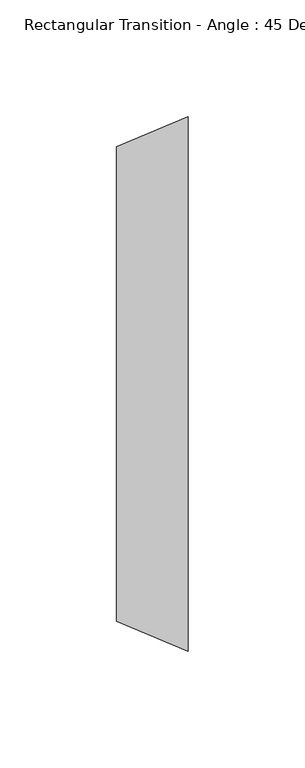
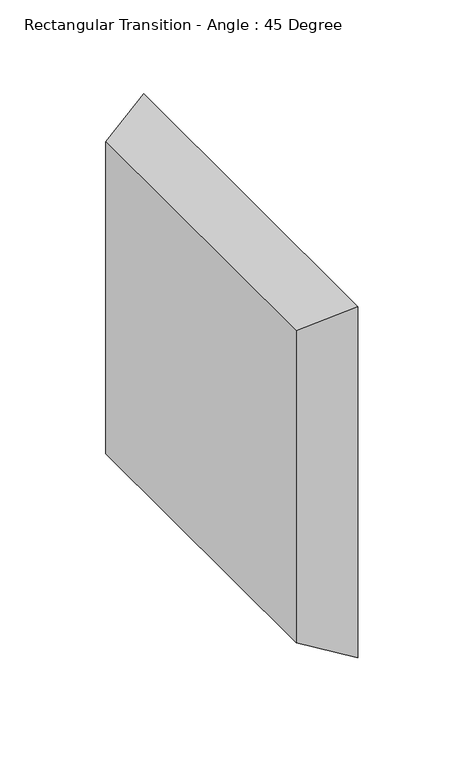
"""IFC4 building model written with IfcOpenShell, lengths in millimetres: duct fitting geometry, Rectangular Transition - Angle : 45 Degree."""

import ifcopenshell
import ifcopenshell.guid

model = None  # the IFC model being written
_history = None  # IfcOwnerHistory: only IFC2X3 demands one
_inside = {}  # id of a spatial element -> (the spatial element, [elements in it])
_under = {}  # id of a project, library or spatial element -> (it, [spatial elements below it])
_declared = {}  # id of a project -> (the project, [libraries it declares])
_typed = {}  # id of a type object -> (the type object, [elements of that type])
_made_of = {}  # id of a material, layer set ... -> (it, [elements and type objects made of it])


def new_model(schema):
    """Start an empty IFC model of exactly this schema.

    Asked for "IFC4X3", IfcOpenShell would pick the latest addendum, in which some entities
    have other attributes; the version numbers below select the first issue.
    IFC2X3 requires an IfcOwnerHistory on every rooted entity: one is made here for all.
    """
    global model, _history
    if schema == "IFC4X3":
        model = ifcopenshell.file(schema_version=(4, 3, 0, 0))
    else:
        model = ifcopenshell.file(schema=schema)
    _inside.clear()
    _under.clear()
    _declared.clear()
    _typed.clear()
    _made_of.clear()
    _history = None
    if model.schema == "IFC2X3":
        org = make("IfcOrganization", Name="unknown")
        user = make(
            "IfcPersonAndOrganization",
            ThePerson=make("IfcPerson", FamilyName="unknown"),
            TheOrganization=org,
        )
        app = make(
            "IfcApplication",
            ApplicationDeveloper=org,
            Version="unknown",
            ApplicationFullName="unknown",
            ApplicationIdentifier="unknown",
        )
        _history = make(
            "IfcOwnerHistory",
            OwningUser=user,
            OwningApplication=app,
            ChangeAction="ADDED",
            CreationDate=0,
        )
    return model


def make(cls, **values):
    """One entity of the class cls with the attributes given. An attribute that is None is left unset."""
    return model.create_entity(
        cls, **{name: value for name, value in values.items() if value is not None}
    )


def rooted(cls, **values):
    """An entity with a GlobalId (a new one), such as an element, a storey or a relation."""
    return make(cls, GlobalId=ifcopenshell.guid.new(), OwnerHistory=_history, **values)


def si_unit(unit_type, name, prefix=None):
    """IfcSIUnit, for example si_unit("LENGTHUNIT", "METRE", prefix="MILLI")."""
    return make("IfcSIUnit", UnitType=unit_type, Prefix=prefix, Name=name)


def assignment(units):
    """IfcUnitAssignment: the units of a project."""
    return None if units is None else make("IfcUnitAssignment", Units=units)


def point(xyz):
    """IfcCartesianPoint."""
    return None if xyz is None else make("IfcCartesianPoint", Coordinates=xyz)


def direction(xyz):
    """IfcDirection."""
    return None if xyz is None else make("IfcDirection", DirectionRatios=xyz)


def frame(location, z_axis=None, x_axis=None):
    """IfcAxis2Placement3D, a coordinate frame: its origin and axes. An axis left out is left unset."""
    return make(
        "IfcAxis2Placement3D",
        Location=point(location),
        Axis=direction(z_axis),
        RefDirection=direction(x_axis),
    )


def origin():
    """The frame at (0, 0, 0) with its axes left unset."""
    return frame((0.0, 0.0, 0.0))


def place(relative_to, where):
    """IfcLocalPlacement: puts the frame where relative to a parent placement (None: the world)."""
    return make(
        "IfcLocalPlacement", PlacementRelTo=relative_to, RelativePlacement=where
    )


def context(
    kind, dimensions, precision=None, world=None, true_north=None, identifier=None
):
    """IfcGeometricRepresentationContext, for example the 3D "Model" context."""
    return make(
        "IfcGeometricRepresentationContext",
        ContextIdentifier=identifier,
        ContextType=kind,
        CoordinateSpaceDimension=dimensions,
        Precision=precision,
        WorldCoordinateSystem=world,
        TrueNorth=true_north,
    )


def project(units=None, contexts=None):
    """IfcProject with its units and contexts."""
    return rooted(
        "IfcProject",
        Name="project",
        RepresentationContexts=contexts,
        UnitsInContext=assignment(units),
    )


def spatial(cls, under=None, at=None, **own):
    """A site, building, storey or space (cls), placed at a placement, below another one or the project."""
    s = rooted(cls, ObjectPlacement=at, **own)
    if under is not None:
        _under.setdefault(under.id(), (under, []))[1].append(s)
    return s


def faces_of(points, faces, orient=None, outer=None):
    """IfcFace entities. A face is a list of loops; a loop is a list of indices into points, from 0.

    orient and outer hold one flag for each loop. By default every Orientation is true, the
    first loop of a face is its IfcFaceOuterBound and the others are IfcFaceBound.
    """
    made = []
    for i, loops in enumerate(faces):
        bounds = []
        for j, loop in enumerate(loops):
            is_outer = j == 0 if outer is None else outer[i][j]
            bounds.append(
                make(
                    "IfcFaceOuterBound" if is_outer else "IfcFaceBound",
                    Bound=make("IfcPolyLoop", Polygon=[points[k] for k in loop]),
                    Orientation=True if orient is None else orient[i][j],
                )
            )
        made.append(make("IfcFace", Bounds=bounds))
    return made


def faceted_brep(points, faces, orient=None, outer=None, voids=None):
    """IfcFacetedBrep: a solid bounded by flat faces; with voids (closed shells), ...WithVoids."""
    shared = [point(p) for p in points]
    hull = make("IfcClosedShell", CfsFaces=faces_of(shared, faces, orient, outer))
    if voids is None:
        return make("IfcFacetedBrep", Outer=hull)
    return make(
        "IfcFacetedBrepWithVoids",
        Outer=hull,
        Voids=[
            make(cls, CfsFaces=faces_of(shared, fs, o, b)) for cls, fs, o, b in voids
        ],
    )


def shape(context_of_items, identifier, shape_type, items):
    """IfcShapeRepresentation: the items that make up one representation, for example the "Body"."""
    return make(
        "IfcShapeRepresentation",
        ContextOfItems=context_of_items,
        RepresentationIdentifier=identifier,
        RepresentationType=shape_type,
        Items=items,
    )


def source(mapping_origin, context_of_items, identifier, shape_type, items):
    """IfcRepresentationMap: a shape defined once, which mapped items show again and again."""
    return make(
        "IfcRepresentationMap",
        MappingOrigin=mapping_origin,
        MappedRepresentation=shape(context_of_items, identifier, shape_type, items),
    )


def transform(
    local_origin,
    x_axis=None,
    y_axis=None,
    z_axis=None,
    scale=None,
    scale2=None,
    scale3=None,
    uniform=True,
):
    """IfcCartesianTransformationOperator3D, or its non-uniform kind. x_axis, y_axis, z_axis: its Axis1, 2, 3."""
    if uniform:
        return make(
            "IfcCartesianTransformationOperator3D",
            Axis1=direction(x_axis),
            Axis2=direction(y_axis),
            LocalOrigin=point(local_origin),
            Scale=scale,
            Axis3=direction(z_axis),
        )
    return make(
        "IfcCartesianTransformationOperator3DnonUniform",
        Axis1=direction(x_axis),
        Axis2=direction(y_axis),
        LocalOrigin=point(local_origin),
        Scale=scale,
        Axis3=direction(z_axis),
        Scale2=scale2,
        Scale3=scale3,
    )


def mapped(mapping_source, mapping_target):
    """IfcMappedItem: shows the shape of a source again, moved by a transform."""
    return make(
        "IfcMappedItem", MappingSource=mapping_source, MappingTarget=mapping_target
    )


def made_of(thing, what):
    """Note that an element or type object is made of a material, layer set ...; save() writes the relation."""
    if what is not None:
        _made_of.setdefault(what.id(), (what, []))[1].append(thing)
    return thing


def element(
    cls,
    number,
    at=None,
    inside=None,
    cuts=None,
    type_object=None,
    material=None,
    context=None,
    identifier="Body",
    shape_type=None,
    held_by="IfcProductDefinitionShape",
    body=None,
    shapes=None,
    **own,
):
    """One element of the class cls, such as IfcWall. Its Tag is "e" and its number.

    at: its placement. inside: the storey or other place that contains it. cuts: it is an
    opening in that element (IfcRelVoidsElement). A single representation is given by context,
    identifier, shape_type and body (its items); several are given by shapes. held_by: the class
    of the entity that holds the representations. save() writes the other relations.
    """
    e = rooted(cls, Tag="e%d" % number, ObjectPlacement=at, **own)
    if body is not None:
        shapes = [shape(context, identifier, shape_type, body)]
    if shapes is not None:
        e.Representation = make(held_by, Representations=shapes)
    if inside is not None:
        _inside.setdefault(inside.id(), (inside, []))[1].append(e)
    if cuts is not None:
        rooted(
            "IfcRelVoidsElement", RelatingBuildingElement=cuts, RelatedOpeningElement=e
        )
    if type_object is not None:
        _typed.setdefault(type_object.id(), (type_object, []))[1].append(e)
    return made_of(e, material)


def aggregate(whole, parts):
    """IfcRelAggregates: a whole, such as a stair, and the parts it consists of."""
    return rooted("IfcRelAggregates", RelatingObject=whole, RelatedObjects=parts)


def save(model, path):
    """Write the relations noted so far, then the file.

    IfcRelAggregates (storeys below a building ...), IfcRelContainedInSpatialStructure (elements
    in a storey), IfcRelDefinesByType, IfcRelAssociatesMaterial and IfcRelDeclares: one each for
    every whole, place, type object, material and project.
    """
    for whole, parts in _under.values():
        aggregate(whole, parts)
    for where, things in _inside.values():
        rooted(
            "IfcRelContainedInSpatialStructure",
            RelatedElements=things,
            RelatingStructure=where,
        )
    for kind, things in _typed.values():
        rooted("IfcRelDefinesByType", RelatedObjects=things, RelatingType=kind)
    for what, things in _made_of.values():
        rooted("IfcRelAssociatesMaterial", RelatedObjects=things, RelatingMaterial=what)
    for by, libraries in _declared.values():
        rooted("IfcRelDeclares", RelatingContext=by, RelatedDefinitions=libraries)
    model.write(path)


def rectangular_transition_angle_45_degree_dc60f1d2(model_context):
    return source(origin(), model_context, "Body", "Brep", [
        faceted_brep([(30.6605122, 114.3, 114.3), (30.6605122, -114.3, 114.3), (30.6605122, -114.3, -114.3), (30.6605122, 114.3, -114.3), (0.0, 101.6, 101.6), (0.0, 101.6, -101.6), (0.0, -101.6, -101.6), (0.0, -101.6, 101.6)], [[[0, 1, 2, 3]], [[4, 5, 6, 7]], [[4, 0, 3, 5]], [[5, 3, 2, 6]], [[6, 2, 1, 7]], [[7, 1, 0, 4]]]),
    ])


if __name__ == "__main__":
    model = new_model("IFC4")
    model_context = context("Model", 3, world=origin())
    ifc_project = project(units=[si_unit("LENGTHUNIT", "METRE", prefix="MILLI")], contexts=[model_context])
    site = spatial("IfcSite", under=ifc_project)
    building = spatial("IfcBuilding", under=site)
    placement = place(None, origin())
    rectangular_transition_angle_45_degree_shape = rectangular_transition_angle_45_degree_dc60f1d2(model_context)
    element("IfcDuctFitting", 1, ObjectType="Rectangular Transition - Angle : 45 Degree", at=placement, inside=building, context=model_context, shape_type="MappedRepresentation", body=[
        mapped(rectangular_transition_angle_45_degree_shape, transform((0.0, 0.0, 0.0), x_axis=(1.0, 0.0, 0.0), y_axis=(0.0, 1.0, 0.0), z_axis=(0.0, 0.0, 1.0))),
    ])
    save(model, "model.ifc")
